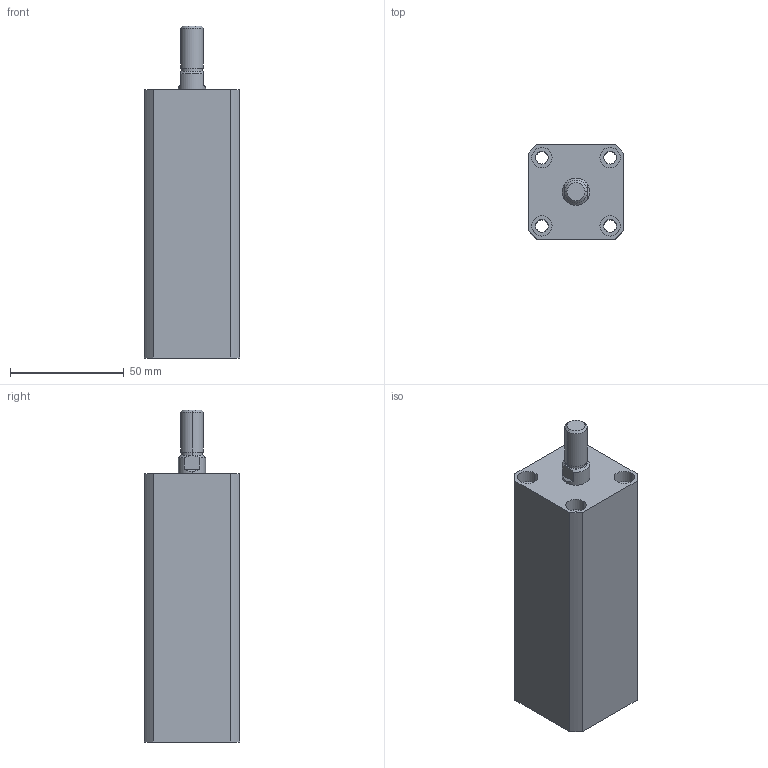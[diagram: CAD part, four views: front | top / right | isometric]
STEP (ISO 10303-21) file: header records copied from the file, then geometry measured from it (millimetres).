
FILE_DESCRIPTION (( 'STEP AP203' ), '1' );
FILE_NAME ('HTB-SDMB20-75W.STEP', '2019-10-09T00:09:30', ( '微软用户' ), ( '微软中国' ), 'SwSTEP 2.0', 'SolidWorks 2012', '' );
FILE_SCHEMA (( 'CONFIG_CONTROL_DESIGN' ));
Length unit declared in the file: millimetre
Products named in the file (3): HTB-SDMB20-75W; HTB-SDMB20-75W活塞杆; HTB-SDMB20-75掛极
Assembly tree (2 placements, depth 2):
  HTB-SDMB20-75W
    HTB-SDMB20-75掛极
    HTB-SDMB20-75W活塞杆
Bounding box: 42 x 42 x 146 mm (x, y, z)
Volume: 178278.9 mm3; surface area: 43799.3 mm2
Topology: 2 solids, 2 shells, 140 faces, 332 edges, 218 vertices
Faces by surface type: plane 66, cylinder 48, bspline 16, torus 6, cone 4
Entity records: 5129 total; most frequent: CARTESIAN_POINT 1587, ORIENTED_EDGE 664, DIRECTION 662, EDGE_CURVE 332, AXIS2_PLACEMENT_3D 241, VERTEX_POINT 218, LINE 180, VECTOR 180
